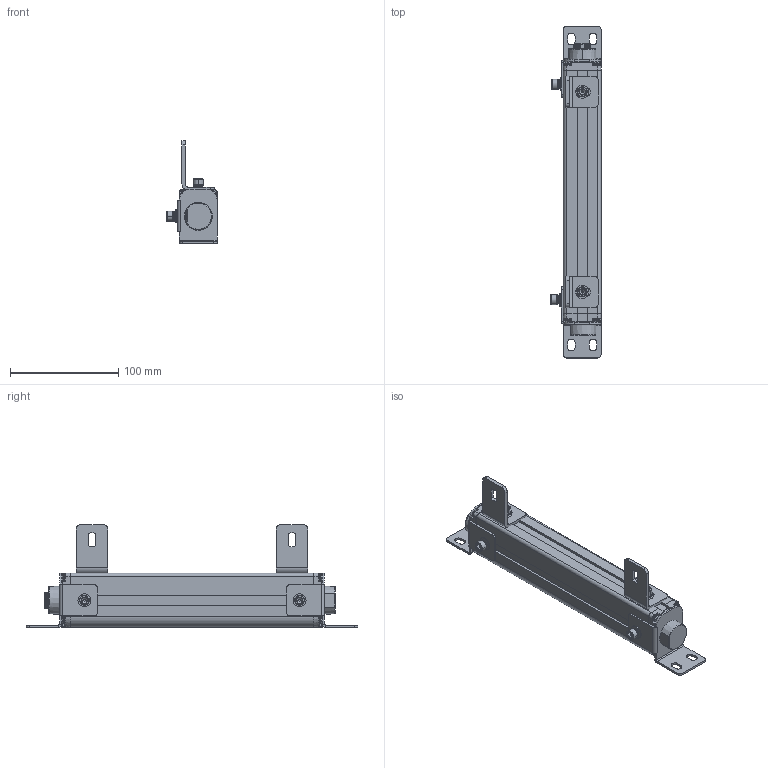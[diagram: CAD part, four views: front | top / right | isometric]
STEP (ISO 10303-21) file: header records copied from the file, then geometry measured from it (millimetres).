
FILE_DESCRIPTION((''),'2;1');
FILE_NAME('ESN--000_ASM','2021-08-10T21:10:45',('18720616900'),(''),'CREO PARAMETRIC BY PTC INC, 2019010','CREO PARAMETRIC BY PTC INC, 2019010','');
FILE_SCHEMA(('CONFIG_CONTROL_DESIGN'));
Length unit declared in the file: millimetre
Products named in the file (22): 00; 000; _0001; 4000; 4--0001; ESN_40001_ASM; L10001; M6-8--0001; M6-1--00; M6-1-00; M6-80001_ASM; L1--0001_ASM; _0002; 0005; ST-3-120001; H1--000; H1--0001_ASM; H1--0003_ASM; ESN--000_ASM
Assembly tree (34 placements, depth 4):
  ESN--000_ASM
    00
    000
    _0001
    000
    ESN_40001_ASM
      4000
      4--0001  x4
    L1--0001_ASM  x2
      L10001
      M6-80001_ASM
        M6-8--0001
        M6-1--00
        M6-1-00
        00
    _0002
    0005
    ST-3-120001  x8
    H1--0001_ASM
      H1--000
      M6-80001_ASM
        M6-8--0001
        M6-1--00
        M6-1-00
        00
    H1--0003_ASM
      H1--000
      M6-80001_ASM
        M6-8--0001
        M6-1--00
        M6-1-00
        00
Bounding box: 46.5 x 307 x 94.95 mm (x, y, z)
Volume: 401628.3 mm3; surface area: 113607.3 mm2
Topology: 39 solids, 39 shells, 1727 faces, 4555 edges, 2925 vertices
Faces by surface type: plane 541, cylinder 404, bspline 362, cone 291, torus 105, sphere 24
Entity records: 45714 total; most frequent: CARTESIAN_POINT 24222, ORIENTED_EDGE 4766, DIRECTION 3842, EDGE_CURVE 2383, VERTEX_POINT 1546, AXIS2_PLACEMENT_3D 1400, VECTOR 1042, LINE 1042
